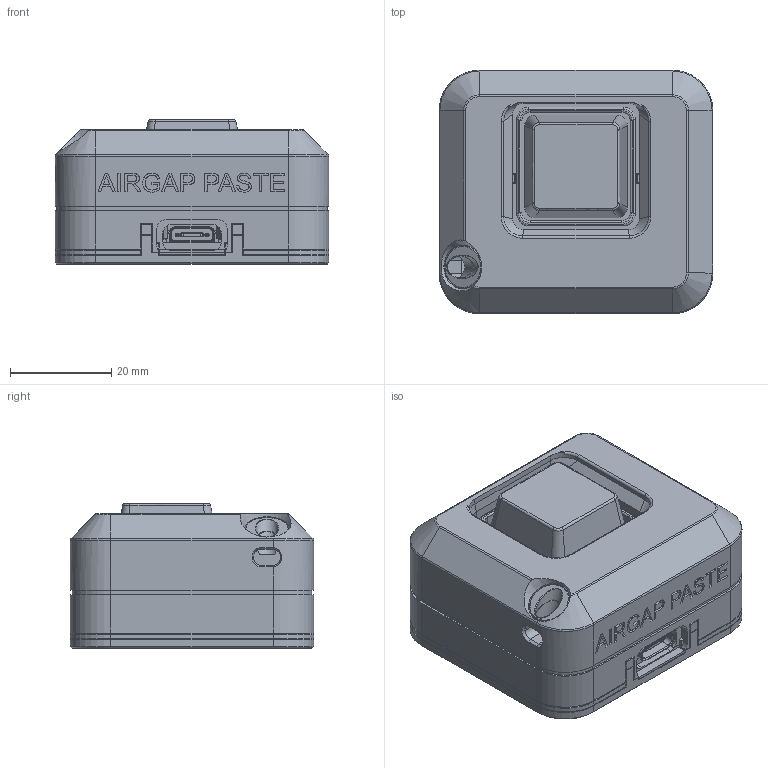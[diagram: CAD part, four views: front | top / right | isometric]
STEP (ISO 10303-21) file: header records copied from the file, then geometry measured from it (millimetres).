
FILE_DESCRIPTION(('Open CASCADE Model'),'2;1');
FILE_NAME('Open CASCADE Shape Model','2026-10-07T16:40:48',('Author'),( 'Open CASCADE'),'Open CASCADE STEP processor 7.9','Open CASCADE 7.9' ,'Unknown');
FILE_SCHEMA(('AUTOMOTIVE_DESIGN { 1 0 10303 214 1 1 1 1 }'));
Length unit declared in the file: millimetre
Products named in the file (14): AirGap_Paste_Pocket_Recess; 12_seam_trim; 01_shell; 02_base; 03_keycap; 04_halo; 09_eye_bushing; 05_mx_plate; 07_xiao_wedge; 06_lightguide_left; 06_lightguide_right; XIAO_official_reference; Flat_FPC_antenna_envelope; MX_dimensional_envelope
Assembly tree (13 placements, depth 2):
  AirGap_Paste_Pocket_Recess
    12_seam_trim
    01_shell
    02_base
    03_keycap
    04_halo
    09_eye_bushing
    05_mx_plate
    07_xiao_wedge
    06_lightguide_left
    06_lightguide_right
    XIAO_official_reference
    Flat_FPC_antenna_envelope
    MX_dimensional_envelope
Bounding box: 54 x 48 x 28.6 mm (x, y, z)
Volume: 35301.2 mm3; surface area: 36143.1 mm2
Topology: 50 solids, 55 shells, 1884 faces, 4919 edges, 3187 vertices
Faces by surface type: plane 1257, cylinder 346, bspline 110, extrusion 100, torus 37, cone 28, sphere 6
Full cylindrical faces by diameter (mm): 0.5 x3, 0.6 x2, 0.75 x14, 1.524 x8, 1.72 x1, 1.86 x1, 2 x2, 3.4 x6, 4.4 x2, 5.3 x1, 8.4 x1, 8.7 x1
Entity records: 126327 total; most frequent: CARTESIAN_POINT 30791, DIRECTION 16264, VECTOR 10920, LINE 10820, ORIENTED_EDGE 9822, PCURVE 9822, DEFINITIONAL_REPRESENTATION 9822, EDGE_CURVE 4911
